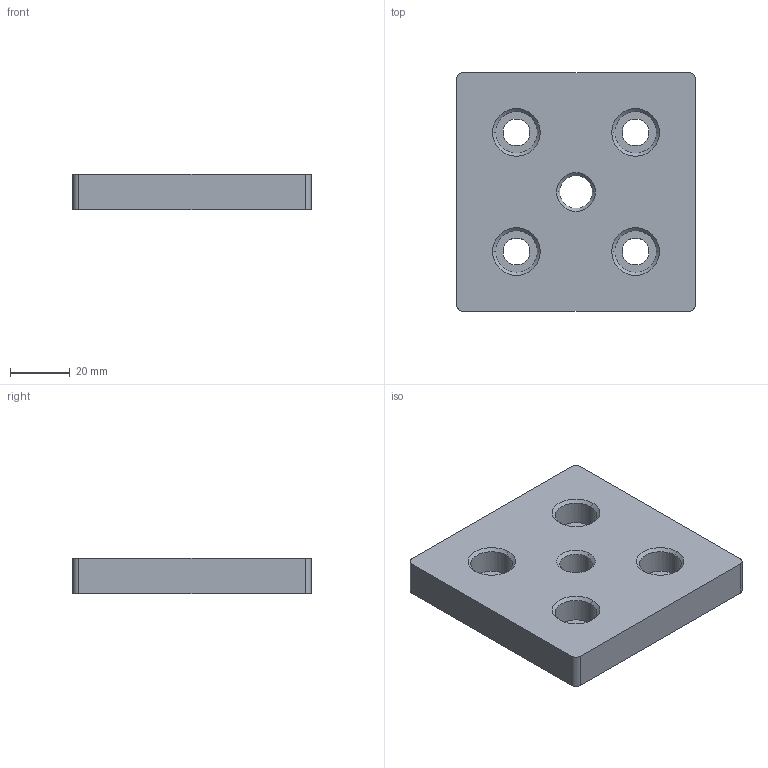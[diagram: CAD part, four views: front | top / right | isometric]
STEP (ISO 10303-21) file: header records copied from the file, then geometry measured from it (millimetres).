
FILE_DESCRIPTION (( 'STEP AP203' ), '1' );
FILE_NAME ('7005.STEP', '2016-04-03T12:26:50', ( '' ), ( '' ), 'SwSTEP 2.0', 'SolidWorks 2014', '' );
FILE_SCHEMA (( 'CONFIG_CONTROL_DESIGN' ));
Length unit declared in the file: millimetre
Products named in the file (1): 7005
Bounding box: 80 x 80 x 12 mm (x, y, z)
Volume: 69123.7 mm3; surface area: 18033.5 mm2
Topology: 1 solids, 1 shells, 52 faces, 118 edges, 72 vertices
Faces by surface type: cylinder 22, cone 20, plane 10
Entity records: 1563 total; most frequent: DIRECTION 288, CARTESIAN_POINT 243, ORIENTED_EDGE 236, EDGE_CURVE 118, AXIS2_PLACEMENT_3D 117, VERTEX_POINT 72, EDGE_LOOP 66, CIRCLE 64
